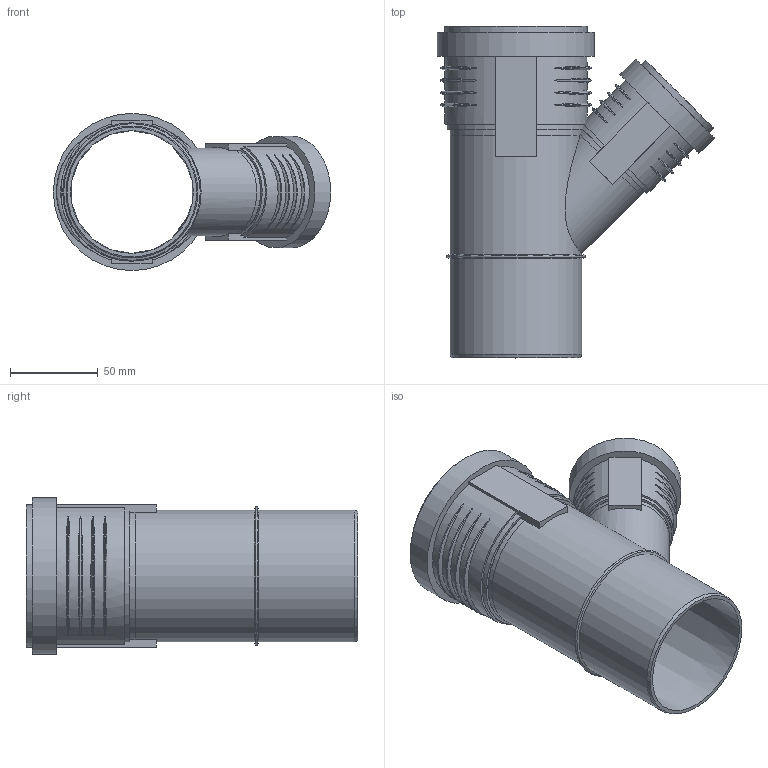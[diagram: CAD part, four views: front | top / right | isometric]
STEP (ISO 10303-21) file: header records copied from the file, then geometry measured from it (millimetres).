
FILE_DESCRIPTION(/* description */ (''),/* implementation_level */ '2;1');
FILE_NAME(/* name */ 'Z:\Geberit\Export\NewStep\390332.stp',/* time_stamp */ '2014-04-02T08:11:47+02:00',/* author */ ('ML'),/* organization */ (''),/* preprocessor_version */ 'ST-DEVELOPER v15.2',/* originating_system */ 'Autodesk Inventor 2014',/* authorisation */ '');
FILE_SCHEMA (('AUTOMOTIVE_DESIGN { 1 0 10303 214 3 1 1 }'));
Length unit declared in the file: millimetre
Products named in the file (4): 861340; 861401; 861402; 390332
Bounding box: 158.11 x 189.2 x 89.6 mm (x, y, z)
Volume: 158855.2 mm3; surface area: 132523.4 mm2
Topology: 3 solids, 3 shells, 123 faces, 302 edges, 211 vertices
Faces by surface type: torus 50, plane 37, cylinder 30, cone 6
Full cylindrical faces by diameter (mm): 44.95 x1, 46.15 x1, 50.15 x2, 51 x2, 55 x1, 59.7 x1, 63.7 x1, 70.2 x1, 75.2 x3, 76.2 x2, 81.2 x1, 84.6 x1, 89.6 x1
Entity records: 5015 total; most frequent: CARTESIAN_POINT 2124, ORIENTED_EDGE 532, DIRECTION 524, EDGE_CURVE 266, AXIS2_PLACEMENT_3D 226, VERTEX_POINT 202, EDGE_LOOP 184, STYLED_ITEM 124
